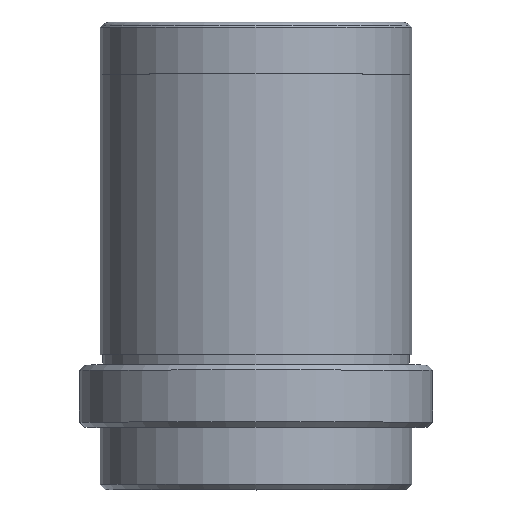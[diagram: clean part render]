
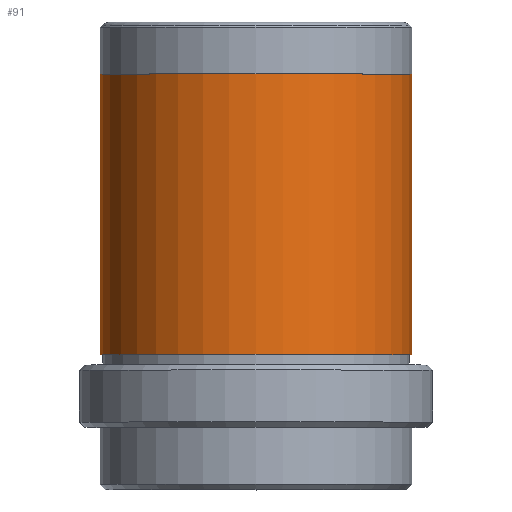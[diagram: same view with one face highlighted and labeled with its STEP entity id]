
A CAD part, top view. The second image highlights one B-rep face of the part: STEP entity #91.
In plain terms, the highlighted cylindrical face has radius 15 mm (diameter 30 mm), a full revolution.
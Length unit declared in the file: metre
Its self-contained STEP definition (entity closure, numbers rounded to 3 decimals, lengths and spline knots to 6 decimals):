
#91 = ADVANCED_FACE( '', ( #140, #141 ), #142, .T. );
#140 = FACE_OUTER_BOUND( '', #197, .T. );
#141 = FACE_OUTER_BOUND( '', #198, .T. );
#142 = CYLINDRICAL_SURFACE( '', #199, 0.015 );
#197 = EDGE_LOOP( '', ( #282 ) );
#198 = EDGE_LOOP( '', ( #283 ) );
#199 = AXIS2_PLACEMENT_3D( '', #284, #285, #286 );
#282 = ORIENTED_EDGE( '', *, *, #322, .T. );
#283 = ORIENTED_EDGE( '', *, *, #321, .F. );
#284 = CARTESIAN_POINT( '', ( 0., 0., 0. ) );
#285 = DIRECTION( '', ( 0., 1., 0. ) );
#286 = DIRECTION( '', ( 0., 0., -1. ) );
#321 = EDGE_CURVE( '', #354, #354, #355, .T. );
#322 = EDGE_CURVE( '', #356, #356, #357, .T. );
#354 = VERTEX_POINT( '', #392 );
#355 = CIRCLE( '', #393, 0.015 );
#356 = VERTEX_POINT( '', #394 );
#357 = CIRCLE( '', #395, 0.015 );
#392 = CARTESIAN_POINT( '', ( 0., 0.001, -0.015 ) );
#393 = AXIS2_PLACEMENT_3D( '', #444, #445, #446 );
#394 = CARTESIAN_POINT( '', ( 0., 0.028, -0.015 ) );
#395 = AXIS2_PLACEMENT_3D( '', #447, #448, #449 );
#444 = CARTESIAN_POINT( '', ( 0., 0.001, 0. ) );
#445 = DIRECTION( '', ( 0., -1., 0. ) );
#446 = DIRECTION( '', ( 0., 0., -1. ) );
#447 = CARTESIAN_POINT( '', ( 0., 0.028, 0. ) );
#448 = DIRECTION( '', ( 0., -1., 0. ) );
#449 = DIRECTION( '', ( 0., 0., -1. ) );
